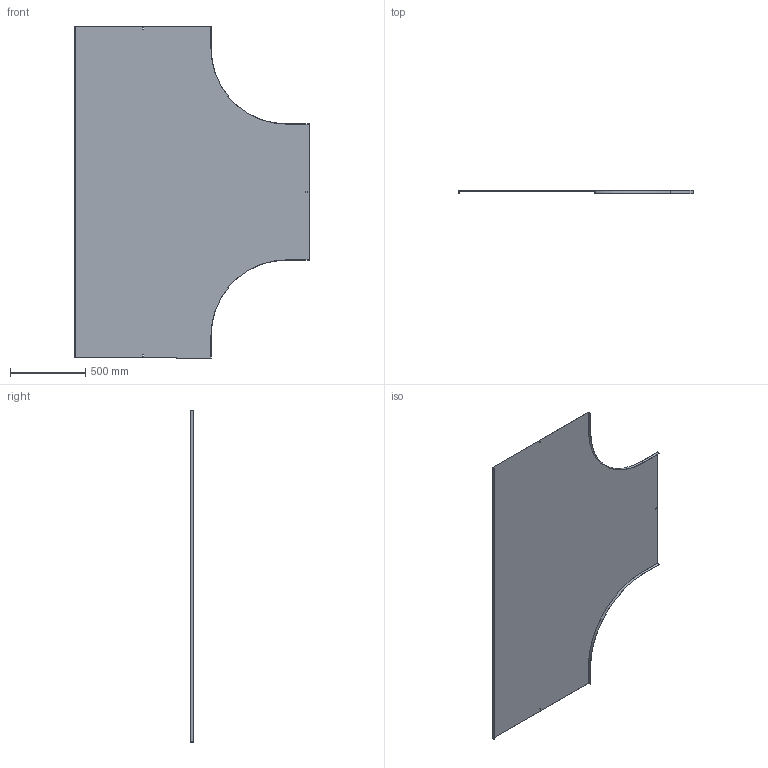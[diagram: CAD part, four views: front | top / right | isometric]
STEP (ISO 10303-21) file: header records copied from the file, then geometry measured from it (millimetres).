
FILE_DESCRIPTION (( 'STEP AP214' ), '1' );
FILE_NAME ('15N5R900.step', '2025-02-21T14:39:06', ( '' ), ( '' ), 'SwSTEP 2.0', 'SolidWorks 2023', '' );
FILE_SCHEMA (( 'AUTOMOTIVE_DESIGN' ));
Length unit declared in the file: millimetre
Products named in the file (1): 15N5R900
Bounding box: 1551.5 x 20 x 2200 mm (x, y, z)
Volume: 4139241.3 mm3; surface area: 5529907.1 mm2
Topology: 1 solids, 1 shells, 34 faces, 96 edges, 64 vertices
Faces by surface type: plane 30, cylinder 4
Entity records: 1123 total; most frequent: CARTESIAN_POINT 195, ORIENTED_EDGE 192, DIRECTION 174, EDGE_CURVE 96, LINE 88, VECTOR 88, VERTEX_POINT 64, AXIS2_PLACEMENT_3D 43
